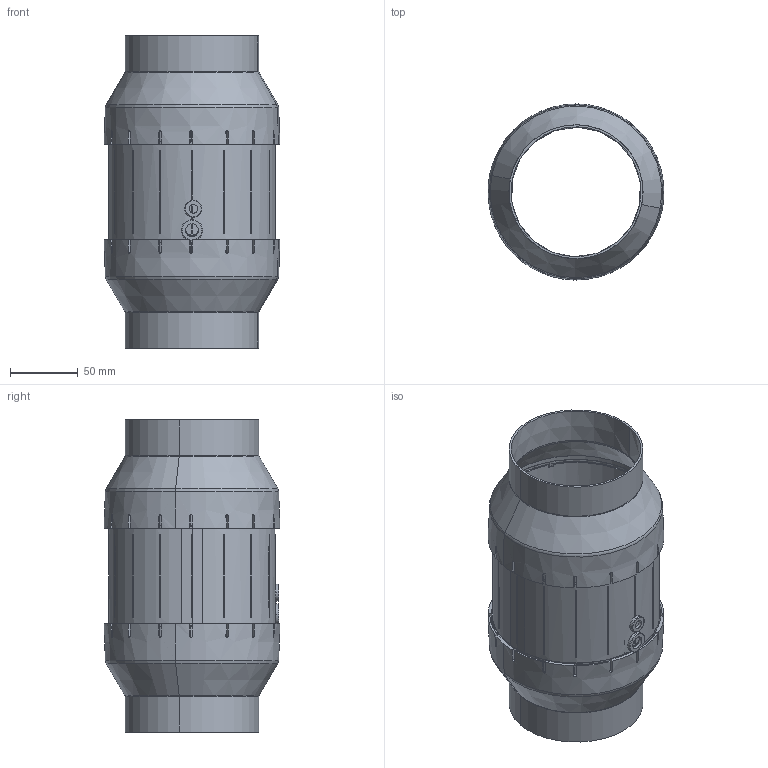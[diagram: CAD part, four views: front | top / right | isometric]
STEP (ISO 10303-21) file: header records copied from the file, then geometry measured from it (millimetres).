
FILE_DESCRIPTION (( 'STEP AP203' ), '1' );
FILE_NAME ('145801-00_EM100LEC02.STEP', '2018-09-18T06:23:28', ( '' ), ( '' ), 'SwSTEP 2.0', 'SolidWorks 2017', '' );
FILE_SCHEMA (( 'CONFIG_CONTROL_DESIGN' ));
Length unit declared in the file: millimetre
Products named in the file (1): 145801-00_EM100LEC02
Bounding box: 130.16 x 130.16 x 231 mm (x, y, z)
Surface area: 218667.4 mm2 (no closed solid volume)
Topology: 0 solids, 21 shells, 374 faces, 1354 edges, 962 vertices
Faces by surface type: plane 145, cylinder 115, cone 77, bspline 21, torus 16
Entity records: 18325 total; most frequent: CARTESIAN_POINT 7778, ORIENTED_EDGE 2259, DIRECTION 1918, EDGE_CURVE 1354, VERTEX_POINT 962, AXIS2_PLACEMENT_3D 776, B_SPLINE_CURVE_WITH_KNOTS 494, CIRCLE 422
